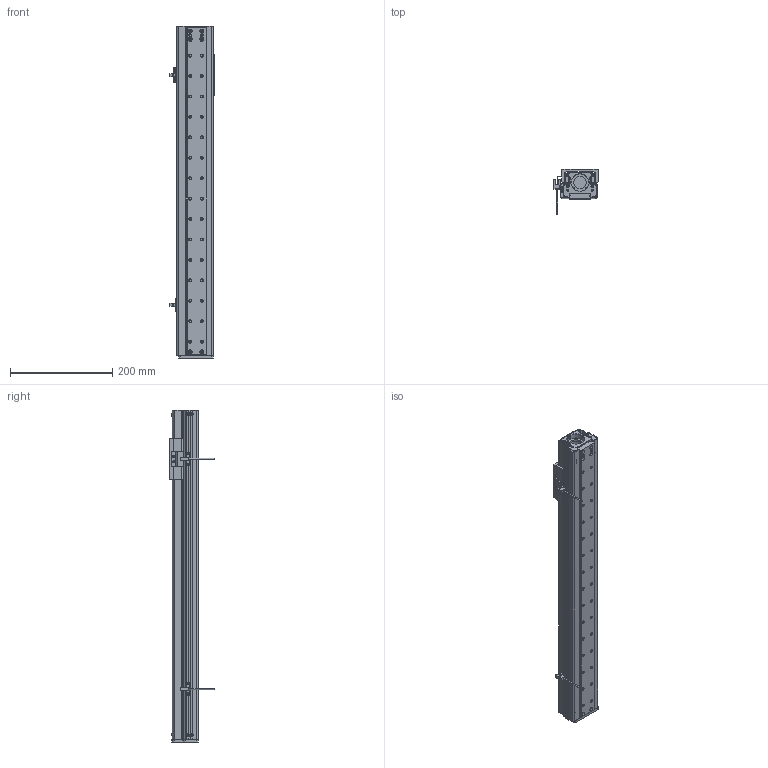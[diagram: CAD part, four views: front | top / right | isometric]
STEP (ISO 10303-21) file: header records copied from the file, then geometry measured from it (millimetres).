
FILE_DESCRIPTION (( 'STEP AP203' ), '1' );
FILE_NAME ('CTHM6-S450.STEP', '2019-12-18T01:48:38', ( '微软用户' ), ( '微软中国' ), 'SwSTEP 2.0', 'SolidWorks 2017', '' );
FILE_SCHEMA (( 'CONFIG_CONTROL_DESIGN' ));
Length unit declared in the file: millimetre
Products named in the file (17): EE-SX672-BR; 遣喳蝶15x12x8; 滅袉蝶; MG60裔啣; CTHM6-S450; 耜結啣(湍羞); LMW15奻窅; DG60傷裔(祥結傷裔); 蟀諉釱(裔啣党蜊); M4-L10囀鞠褒蹟佪; LMW15AA; 侧挡板2(带磁条修改厚度); 固定侧轴承座(自制轴承座); M3-L6半圆头内六角螺丝; 羲壽え; M3-L6囀鞠褒蹟佪; 支持侧轴承座(带磁条)
Assembly tree (29 placements, depth 2):
  CTHM6-S450
    LMW15奻窅
    蟀諉釱(裔啣党蜊)
    LMW15AA
    固定侧轴承座(自制轴承座)
    羲壽え
    支持侧轴承座(带磁条)
    遣喳蝶15x12x8  x2
    MG60裔啣
    耜結啣(湍羞)
    DG60傷裔(祥結傷裔)
    M4-L10囀鞠褒蹟佪  x2
    侧挡板2(带磁条修改厚度)
    M3-L6半圆头内六角螺丝  x8
    M3-L6囀鞠褒蹟佪  x4
    EE-SX672-BR  x2
    滅袉蝶
Bounding box: 86.7 x 87.8 x 650 mm (x, y, z)
Volume: 709725.9 mm3; surface area: 477093.9 mm2
Topology: 33 solids, 33 shells, 1931 faces, 4962 edges, 3072 vertices
Faces by surface type: plane 790, cylinder 697, cone 330, torus 88, bspline 26
Entity records: 52800 total; most frequent: CARTESIAN_POINT 11045, DIRECTION 8570, ORIENTED_EDGE 8140, EDGE_CURVE 4070, AXIS2_PLACEMENT_3D 3198, VERTEX_POINT 2573, VECTOR 2174, LINE 2174
